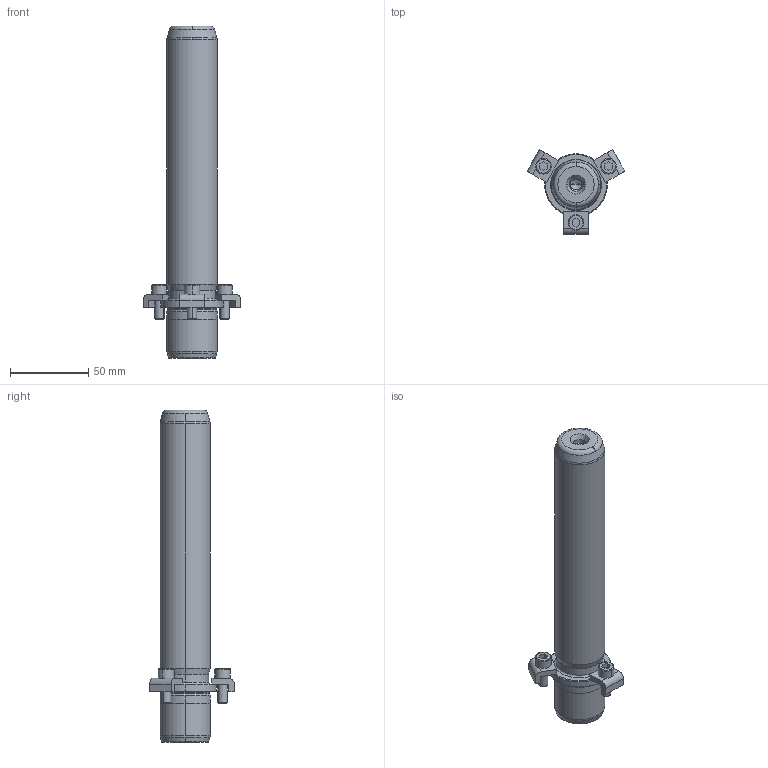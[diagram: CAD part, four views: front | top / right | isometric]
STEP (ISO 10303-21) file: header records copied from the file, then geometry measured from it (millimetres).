
FILE_DESCRIPTION((''),'2;1');
FILE_NAME('P21_032_180.stp','2008-12-23T10:34:20',(''),(''),'Mechanical Desktop 2009','Mechanical Desktop 2009',', , ');
FILE_SCHEMA(('CONFIG_CONTROL_DESIGN'));
Length unit declared in the file: millimetre
Products named in the file (2): Product; blmdl1
Assembly tree (1 placements, depth 2):
  Product
    blmdl1
Bounding box: 62.51 x 54.13 x 212 mm (x, y, z)
Volume: 173891.3 mm3; surface area: 29197.9 mm2
Topology: 7 solids, 7 shells, 163 faces, 399 edges, 257 vertices
Faces by surface type: plane 59, cylinder 44, cone 32, torus 14, bspline 14
Entity records: 5517 total; most frequent: CARTESIAN_POINT 1433, DIRECTION 908, ORIENTED_EDGE 790, EDGE_CURVE 395, AXIS2_PLACEMENT_3D 362, VERTEX_POINT 257, CIRCLE 211, VECTOR 184
